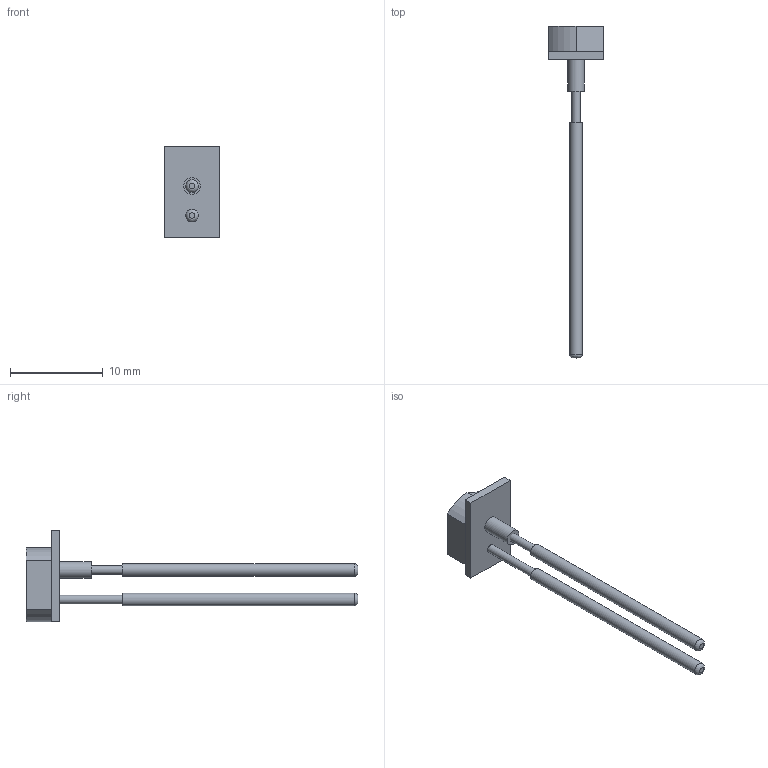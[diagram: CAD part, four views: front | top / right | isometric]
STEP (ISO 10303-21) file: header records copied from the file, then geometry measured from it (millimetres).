
FILE_DESCRIPTION(/* description */ (''),/* implementation_level */ '2;1');
FILE_NAME(/* name */ 'C:/Users/sorto/Downloads/FINN_RA_GREEN.step',/* time_stamp */ '2020-10-08T23:46:46-05:00',/* author */ (''),/* organization */ (''),/* preprocessor_version */ 'ST-DEVELOPER v18.1',/* originating_system */ 'Autodesk Translation Framework v9.3.0.1241',/* authorisation */ '');
FILE_SCHEMA (('AUTOMOTIVE_DESIGN { 1 0 10303 214 3 1 1 }'));
Length unit declared in the file: inch
Products named in the file (1): FINN_RA
Bounding box: 6 x 35.8 x 9.91 mm (x, y, z)
Volume: 252.8 mm3; surface area: 589.7 mm2
Topology: 5 solids, 5 shells, 41 faces, 80 edges, 52 vertices
Faces by surface type: plane 30, cylinder 9, bspline 2
Full cylindrical faces by diameter (mm): 0.914 x2, 1.367 x2, 1.778 x1
Entity records: 1136 total; most frequent: CARTESIAN_POINT 226, DIRECTION 184, ORIENTED_EDGE 160, EDGE_CURVE 80, AXIS2_PLACEMENT_3D 64, LINE 56, VECTOR 56, VERTEX_POINT 52
